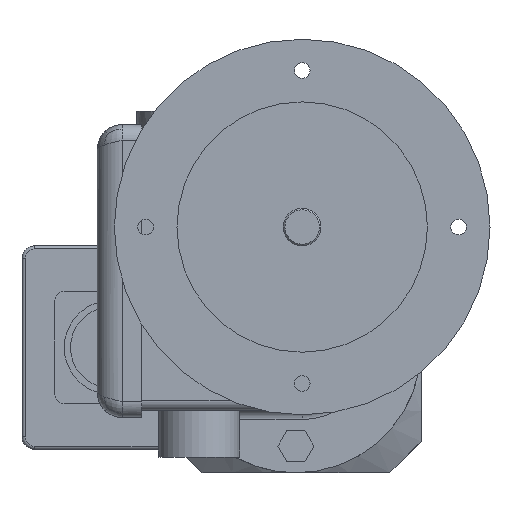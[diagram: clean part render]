
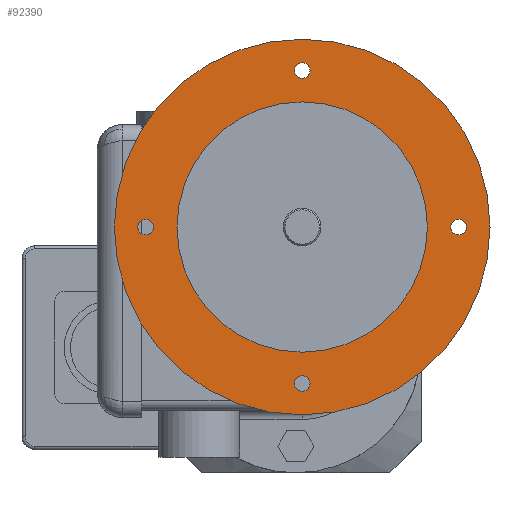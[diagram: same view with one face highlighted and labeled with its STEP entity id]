
A CAD part, left-side view. The second image highlights one B-rep face of the part: STEP entity #92390.
In plain terms, the highlighted planar face has unit normal (-1, 0, 0) as drawn and (0, 0, 1) by its records, which use the part's own axes.
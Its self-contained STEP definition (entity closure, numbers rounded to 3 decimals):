
#91310=CARTESIAN_POINT('',(-34.958,-296.478,220.));
#91320=VERTEX_POINT('',#91310);
#91400=CARTESIAN_POINT('',(-154.958,-296.478,220.));
#91410=VERTEX_POINT('',#91400);
#91440=CARTESIAN_POINT('',(-94.958,-296.478,220.));
#91450=DIRECTION('',(0.,0.,1.));
#91460=DIRECTION('',(1.,0.,0.));
#91470=AXIS2_PLACEMENT_3D('',#91440,#91450,#91460);
#91480=CIRCLE('',#91470,60.);
#91490=EDGE_CURVE('',#91410,#91320,#91480,.T.);
#91540=CARTESIAN_POINT('',(-91.592,-279.62,220.));
#91550=DIRECTION('',(0.,0.,1.));
#91560=DIRECTION('',(1.,0.,0.));
#91570=AXIS2_PLACEMENT_3D('',#91540,#91550,#91560);
#91580=PLANE('',#91570);
#91590=EDGE_CURVE('',#91320,#91410,#91480,.T.);
#91600=ORIENTED_EDGE('',*,*,#91590,.T.);
#91610=ORIENTED_EDGE('',*,*,#91490,.T.);
#91620=EDGE_LOOP('',(#91610,#91600));
#91630=FACE_OUTER_BOUND('',#91620,.T.);
#91640=CARTESIAN_POINT('',(-94.958,-296.478,220.));
#91650=DIRECTION('',(0.,0.,1.));
#91660=DIRECTION('',(1.,0.,0.));
#91670=AXIS2_PLACEMENT_3D('',#91640,#91650,#91660);
#91680=CIRCLE('',#91670,40.);
#91690=CARTESIAN_POINT('',(-54.958,-296.478,220.));
#91700=VERTEX_POINT('',#91690);
#91710=CARTESIAN_POINT('',(-134.958,-296.478,220.));
#91720=VERTEX_POINT('',#91710);
#91730=EDGE_CURVE('',#91700,#91720,#91680,.T.);
#91740=ORIENTED_EDGE('',*,*,#91730,.F.);
#91750=EDGE_CURVE('',#91720,#91700,#91680,.T.);
#91760=ORIENTED_EDGE('',*,*,#91750,.F.);
#91770=EDGE_LOOP('',(#91760,#91740));
#91780=FACE_BOUND('',#91770,.T.);
#91790=CARTESIAN_POINT('',(-44.958,-296.478,220.));
#91800=DIRECTION('',(0.,0.,1.));
#91810=DIRECTION('',(-1.,0.,0.));
#91820=AXIS2_PLACEMENT_3D('',#91790,#91800,#91810);
#91830=CIRCLE('',#91820,2.5);
#91840=CARTESIAN_POINT('',(-47.458,-296.478,220.));
#91850=VERTEX_POINT('',#91840);
#91860=CARTESIAN_POINT('',(-42.458,-296.478,220.));
#91870=VERTEX_POINT('',#91860);
#91880=EDGE_CURVE('',#91850,#91870,#91830,.T.);
#91890=ORIENTED_EDGE('',*,*,#91880,.F.);
#91900=EDGE_CURVE('',#91870,#91850,#91830,.T.);
#91910=ORIENTED_EDGE('',*,*,#91900,.F.);
#91920=EDGE_LOOP('',(#91910,#91890));
#91930=FACE_BOUND('',#91920,.T.);
#91940=CARTESIAN_POINT('',(-94.958,-346.478,220.));
#91950=DIRECTION('',(0.,0.,1.));
#91960=DIRECTION('',(0.,1.,0.));
#91970=AXIS2_PLACEMENT_3D('',#91940,#91950,#91960);
#91980=CIRCLE('',#91970,2.5);
#91990=CARTESIAN_POINT('',(-94.958,-343.978,220.));
#92000=VERTEX_POINT('',#91990);
#92010=CARTESIAN_POINT('',(-94.958,-348.978,220.));
#92020=VERTEX_POINT('',#92010);
#92030=EDGE_CURVE('',#92000,#92020,#91980,.T.);
#92040=ORIENTED_EDGE('',*,*,#92030,.F.);
#92050=EDGE_CURVE('',#92020,#92000,#91980,.T.);
#92060=ORIENTED_EDGE('',*,*,#92050,.F.);
#92070=EDGE_LOOP('',(#92060,#92040));
#92080=FACE_BOUND('',#92070,.T.);
#92090=CARTESIAN_POINT('',(-144.958,-296.478,220.));
#92100=DIRECTION('',(0.,0.,1.));
#92110=DIRECTION('',(1.,0.,0.));
#92120=AXIS2_PLACEMENT_3D('',#92090,#92100,#92110);
#92130=CIRCLE('',#92120,2.5);
#92140=CARTESIAN_POINT('',(-142.458,-296.478,220.));
#92150=VERTEX_POINT('',#92140);
#92160=CARTESIAN_POINT('',(-147.458,-296.478,220.));
#92170=VERTEX_POINT('',#92160);
#92180=EDGE_CURVE('',#92150,#92170,#92130,.T.);
#92190=ORIENTED_EDGE('',*,*,#92180,.F.);
#92200=EDGE_CURVE('',#92170,#92150,#92130,.T.);
#92210=ORIENTED_EDGE('',*,*,#92200,.F.);
#92220=EDGE_LOOP('',(#92210,#92190));
#92230=FACE_BOUND('',#92220,.T.);
#92240=CARTESIAN_POINT('',(-94.958,-246.478,220.));
#92250=DIRECTION('',(0.,0.,1.));
#92260=DIRECTION('',(0.,-1.,0.));
#92270=AXIS2_PLACEMENT_3D('',#92240,#92250,#92260);
#92280=CIRCLE('',#92270,2.5);
#92290=CARTESIAN_POINT('',(-94.958,-248.978,220.));
#92300=VERTEX_POINT('',#92290);
#92310=CARTESIAN_POINT('',(-94.958,-243.978,220.));
#92320=VERTEX_POINT('',#92310);
#92330=EDGE_CURVE('',#92300,#92320,#92280,.T.);
#92340=ORIENTED_EDGE('',*,*,#92330,.F.);
#92350=EDGE_CURVE('',#92320,#92300,#92280,.T.);
#92360=ORIENTED_EDGE('',*,*,#92350,.F.);
#92370=EDGE_LOOP('',(#92360,#92340));
#92380=FACE_BOUND('',#92370,.T.);
#92390=ADVANCED_FACE('',(#91630,#91780,#91930,#92080,#92230,#92380),
#91580,.T.);
